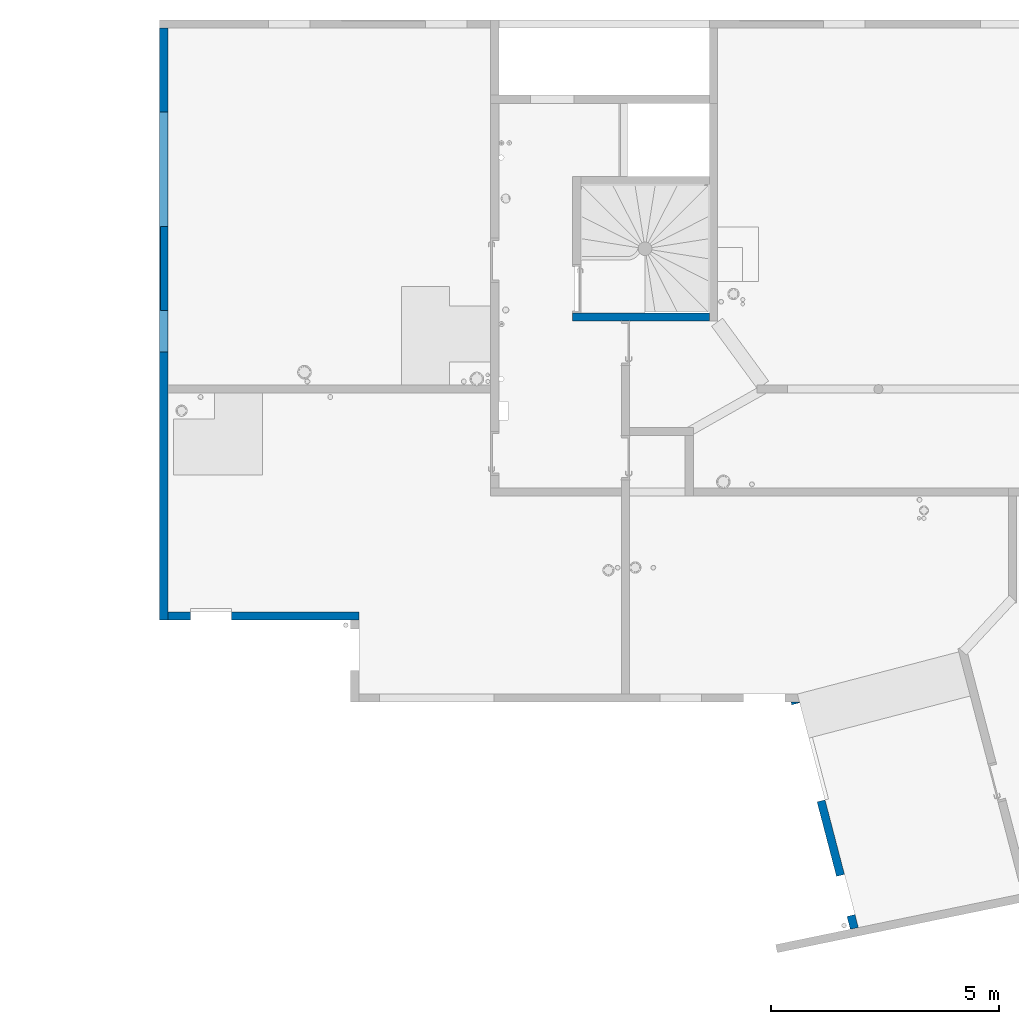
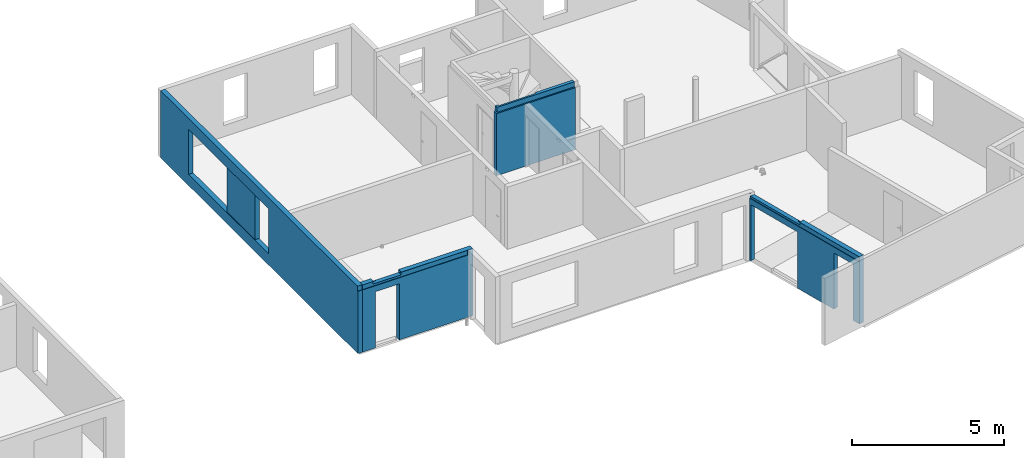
# One storey, part 18 of 24: 4 walls.
"""IFC2X3 building model written with IfcOpenShell, lengths in centimetres."""

import ifcopenshell
import ifcopenshell.guid

model = None  # the IFC model being written
_history = None  # IfcOwnerHistory: only IFC2X3 demands one
_inside = {}  # id of a spatial element -> (the spatial element, [elements in it])
_under = {}  # id of a project, library or spatial element -> (it, [spatial elements below it])
_declared = {}  # id of a project -> (the project, [libraries it declares])
_typed = {}  # id of a type object -> (the type object, [elements of that type])
_made_of = {}  # id of a material, layer set ... -> (it, [elements and type objects made of it])


def new_model(schema):
    """Start an empty IFC model of exactly this schema.

    Asked for "IFC4X3", IfcOpenShell would pick the latest addendum, in which some entities
    have other attributes; the version numbers below select the first issue.
    IFC2X3 requires an IfcOwnerHistory on every rooted entity: one is made here for all.
    """
    global model, _history
    if schema == "IFC4X3":
        model = ifcopenshell.file(schema_version=(4, 3, 0, 0))
    else:
        model = ifcopenshell.file(schema=schema)
    _inside.clear()
    _under.clear()
    _declared.clear()
    _typed.clear()
    _made_of.clear()
    _history = None
    if model.schema == "IFC2X3":
        org = make("IfcOrganization", Name="unknown")
        user = make(
            "IfcPersonAndOrganization",
            ThePerson=make("IfcPerson", FamilyName="unknown"),
            TheOrganization=org,
        )
        app = make(
            "IfcApplication",
            ApplicationDeveloper=org,
            Version="unknown",
            ApplicationFullName="unknown",
            ApplicationIdentifier="unknown",
        )
        _history = make(
            "IfcOwnerHistory",
            OwningUser=user,
            OwningApplication=app,
            ChangeAction="ADDED",
            CreationDate=0,
        )
    return model


def make(cls, **values):
    """One entity of the class cls with the attributes given. An attribute that is None is left unset."""
    return model.create_entity(
        cls, **{name: value for name, value in values.items() if value is not None}
    )


def entity(cls, *values):
    """Any entity or typed value of the class cls, its attributes in the order of the schema. None: left unset."""
    e = model.create_entity(cls)
    for i, value in enumerate(values):
        if value is not None:
            e[i] = value
    return e


def rooted(cls, **values):
    """An entity with a GlobalId (a new one), such as an element, a storey or a relation."""
    return make(cls, GlobalId=ifcopenshell.guid.new(), OwnerHistory=_history, **values)


def si_unit(unit_type, name, prefix=None):
    """IfcSIUnit, for example si_unit("LENGTHUNIT", "METRE", prefix="MILLI")."""
    return make("IfcSIUnit", UnitType=unit_type, Prefix=prefix, Name=name)


def converted_unit(unit_type, name, factor, base, dimensions=None, offset=None):
    """IfcConversionBasedUnit, such as the inch: factor (a typed value) times the base unit."""
    return make(
        "IfcConversionBasedUnit"
        if offset is None
        else "IfcConversionBasedUnitWithOffset",
        ConversionOffset=offset,
        Dimensions=None
        if dimensions is None
        else entity("IfcDimensionalExponents", *dimensions),
        UnitType=unit_type,
        Name=name,
        ConversionFactor=make(
            "IfcMeasureWithUnit", ValueComponent=factor, UnitComponent=base
        ),
    )


def derived_unit(unit_type, elements):
    """IfcDerivedUnit: a product of units, each with its exponent."""
    return make(
        "IfcDerivedUnit",
        Elements=[
            make("IfcDerivedUnitElement", Unit=unit, Exponent=power)
            for unit, power in elements
        ],
        UnitType=unit_type,
    )


def assignment(units):
    """IfcUnitAssignment: the units of a project."""
    return None if units is None else make("IfcUnitAssignment", Units=units)


def point(xyz):
    """IfcCartesianPoint."""
    return None if xyz is None else make("IfcCartesianPoint", Coordinates=xyz)


def direction(xyz):
    """IfcDirection."""
    return None if xyz is None else make("IfcDirection", DirectionRatios=xyz)


def frame(location, z_axis=None, x_axis=None):
    """IfcAxis2Placement3D, a coordinate frame: its origin and axes. An axis left out is left unset."""
    return make(
        "IfcAxis2Placement3D",
        Location=point(location),
        Axis=direction(z_axis),
        RefDirection=direction(x_axis),
    )


def origin():
    """The frame at (0, 0, 0) with its axes left unset."""
    return frame((0.0, 0.0, 0.0))


def place(relative_to, where):
    """IfcLocalPlacement: puts the frame where relative to a parent placement (None: the world)."""
    return make(
        "IfcLocalPlacement", PlacementRelTo=relative_to, RelativePlacement=where
    )


def context(
    kind, dimensions, precision=None, world=None, true_north=None, identifier=None
):
    """IfcGeometricRepresentationContext, for example the 3D "Model" context."""
    return make(
        "IfcGeometricRepresentationContext",
        ContextIdentifier=identifier,
        ContextType=kind,
        CoordinateSpaceDimension=dimensions,
        Precision=precision,
        WorldCoordinateSystem=world,
        TrueNorth=true_north,
    )


def subcontext(parent, identifier, kind, view, scale=None):
    """IfcGeometricRepresentationSubContext, for example "Body" below "Model"."""
    return make(
        "IfcGeometricRepresentationSubContext",
        ContextIdentifier=identifier,
        ContextType=kind,
        ParentContext=parent,
        TargetScale=scale,
        TargetView=view,
    )


def project(units=None, contexts=None):
    """IfcProject with its units and contexts."""
    return rooted(
        "IfcProject",
        Name="project",
        RepresentationContexts=contexts,
        UnitsInContext=assignment(units),
    )


def spatial(cls, under=None, at=None, **own):
    """A site, building, storey or space (cls), placed at a placement, below another one or the project."""
    s = rooted(cls, ObjectPlacement=at, **own)
    if under is not None:
        _under.setdefault(under.id(), (under, []))[1].append(s)
    return s


def faces_of(points, faces, orient=None, outer=None):
    """IfcFace entities. A face is a list of loops; a loop is a list of indices into points, from 0.

    orient and outer hold one flag for each loop. By default every Orientation is true, the
    first loop of a face is its IfcFaceOuterBound and the others are IfcFaceBound.
    """
    made = []
    for i, loops in enumerate(faces):
        bounds = []
        for j, loop in enumerate(loops):
            is_outer = j == 0 if outer is None else outer[i][j]
            bounds.append(
                make(
                    "IfcFaceOuterBound" if is_outer else "IfcFaceBound",
                    Bound=make("IfcPolyLoop", Polygon=[points[k] for k in loop]),
                    Orientation=True if orient is None else orient[i][j],
                )
            )
        made.append(make("IfcFace", Bounds=bounds))
    return made


def faceted_brep(points, faces, orient=None, outer=None, voids=None):
    """IfcFacetedBrep: a solid bounded by flat faces; with voids (closed shells), ...WithVoids."""
    shared = [point(p) for p in points]
    hull = make("IfcClosedShell", CfsFaces=faces_of(shared, faces, orient, outer))
    if voids is None:
        return make("IfcFacetedBrep", Outer=hull)
    return make(
        "IfcFacetedBrepWithVoids",
        Outer=hull,
        Voids=[
            make(cls, CfsFaces=faces_of(shared, fs, o, b)) for cls, fs, o, b in voids
        ],
    )


def shape(context_of_items, identifier, shape_type, items):
    """IfcShapeRepresentation: the items that make up one representation, for example the "Body"."""
    return make(
        "IfcShapeRepresentation",
        ContextOfItems=context_of_items,
        RepresentationIdentifier=identifier,
        RepresentationType=shape_type,
        Items=items,
    )


def material(Name=None, Category=None):
    """IfcMaterial."""
    return make("IfcMaterial", Name=Name, Category=Category)


def layer(
    of_material, thickness, ventilated=None, Name=None, Category=None, Priority=None
):
    """IfcMaterialLayer: one layer of a wall or slab, of a material (None: an air gap)."""
    return make(
        "IfcMaterialLayer",
        Material=of_material,
        LayerThickness=thickness,
        IsVentilated=ventilated,
        Name=Name,
        Category=Category,
        Priority=Priority,
    )


def layer_set(layers, Name=None):
    """IfcMaterialLayerSet."""
    return make("IfcMaterialLayerSet", MaterialLayers=layers, LayerSetName=Name)


def made_of(thing, what):
    """Note that an element or type object is made of a material, layer set ...; save() writes the relation."""
    if what is not None:
        _made_of.setdefault(what.id(), (what, []))[1].append(thing)
    return thing


def type_object(cls, material=None, **own):
    """A type object (cls), such as IfcWallType, which elements share."""
    return made_of(rooted(cls, **own), material)


def element(
    cls,
    number,
    at=None,
    inside=None,
    cuts=None,
    type_object=None,
    material=None,
    context=None,
    identifier="Body",
    shape_type=None,
    held_by="IfcProductDefinitionShape",
    body=None,
    shapes=None,
    **own,
):
    """One element of the class cls, such as IfcWall. Its Tag is "e" and its number.

    at: its placement. inside: the storey or other place that contains it. cuts: it is an
    opening in that element (IfcRelVoidsElement). A single representation is given by context,
    identifier, shape_type and body (its items); several are given by shapes. held_by: the class
    of the entity that holds the representations. save() writes the other relations.
    """
    e = rooted(cls, Tag="e%d" % number, ObjectPlacement=at, **own)
    if body is not None:
        shapes = [shape(context, identifier, shape_type, body)]
    if shapes is not None:
        e.Representation = make(held_by, Representations=shapes)
    if inside is not None:
        _inside.setdefault(inside.id(), (inside, []))[1].append(e)
    if cuts is not None:
        rooted(
            "IfcRelVoidsElement", RelatingBuildingElement=cuts, RelatedOpeningElement=e
        )
    if type_object is not None:
        _typed.setdefault(type_object.id(), (type_object, []))[1].append(e)
    return made_of(e, material)


def aggregate(whole, parts):
    """IfcRelAggregates: a whole, such as a stair, and the parts it consists of."""
    return rooted("IfcRelAggregates", RelatingObject=whole, RelatedObjects=parts)


def save(model, path):
    """Write the relations noted so far, then the file.

    IfcRelAggregates (storeys below a building ...), IfcRelContainedInSpatialStructure (elements
    in a storey), IfcRelDefinesByType, IfcRelAssociatesMaterial and IfcRelDeclares: one each for
    every whole, place, type object, material and project.
    """
    for whole, parts in _under.values():
        aggregate(whole, parts)
    for where, things in _inside.values():
        rooted(
            "IfcRelContainedInSpatialStructure",
            RelatedElements=things,
            RelatingStructure=where,
        )
    for kind, things in _typed.values():
        rooted("IfcRelDefinesByType", RelatedObjects=things, RelatingType=kind)
    for what, things in _made_of.values():
        rooted("IfcRelAssociatesMaterial", RelatedObjects=things, RelatingMaterial=what)
    for by, libraries in _declared.values():
        rooted("IfcRelDeclares", RelatingContext=by, RelatedDefinitions=libraries)
    model.write(path)


model = new_model("IFC2X3")

# Units and contexts
model_context = context("Model", 3, precision=0.001, world=origin(), true_north=direction((6.12303176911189e-17, 1.0)))
body_context = subcontext(model_context, "Body", "Model", "MODEL_VIEW")
ifc_project = project(units=[si_unit("LENGTHUNIT", "METRE", prefix="CENTI"), si_unit("AREAUNIT", "SQUARE_METRE"), si_unit("VOLUMEUNIT", "CUBIC_METRE"), converted_unit("PLANEANGLEUNIT", "DEGREE", entity("IfcRatioMeasure", 0.0174532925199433), si_unit("PLANEANGLEUNIT", "RADIAN"), dimensions=[0, 0, 0, 0, 0, 0, 0]), si_unit("MASSUNIT", "GRAM", prefix="KILO"), derived_unit("MASSDENSITYUNIT", [(si_unit("MASSUNIT", "GRAM", prefix="KILO"), 1), (si_unit("LENGTHUNIT", "METRE"), -3)]), si_unit("TIMEUNIT", "SECOND"), si_unit("FREQUENCYUNIT", "HERTZ"), si_unit("THERMODYNAMICTEMPERATUREUNIT", "DEGREE_CELSIUS"), derived_unit("THERMALTRANSMITTANCEUNIT", [(si_unit("MASSUNIT", "GRAM", prefix="KILO"), 1), (si_unit("THERMODYNAMICTEMPERATUREUNIT", "KELVIN"), -1), (si_unit("TIMEUNIT", "SECOND"), -3)]), derived_unit("VOLUMETRICFLOWRATEUNIT", [(si_unit("LENGTHUNIT", "METRE"), 3), (si_unit("TIMEUNIT", "SECOND"), -1)]), si_unit("ELECTRICCURRENTUNIT", "AMPERE"), si_unit("ELECTRICVOLTAGEUNIT", "VOLT"), si_unit("POWERUNIT", "WATT"), si_unit("FORCEUNIT", "NEWTON"), si_unit("ILLUMINANCEUNIT", "LUX"), si_unit("LUMINOUSFLUXUNIT", "LUMEN"), si_unit("LUMINOUSINTENSITYUNIT", "CANDELA"), derived_unit("USERDEFINED", [(si_unit("MASSUNIT", "GRAM", prefix="KILO"), -1), (si_unit("LENGTHUNIT", "METRE"), -2), (si_unit("TIMEUNIT", "SECOND"), 3), (si_unit("LUMINOUSFLUXUNIT", "LUMEN"), 1)]), derived_unit("LINEARVELOCITYUNIT", [(si_unit("LENGTHUNIT", "METRE"), 1), (si_unit("TIMEUNIT", "SECOND"), -1)]), si_unit("PRESSUREUNIT", "PASCAL"), derived_unit("USERDEFINED", [(si_unit("LENGTHUNIT", "METRE"), -2), (si_unit("MASSUNIT", "GRAM", prefix="KILO"), 1), (si_unit("TIMEUNIT", "SECOND"), -2)])], contexts=[model_context])

# Site, building, storey
site_placement = place(None, origin())
site = spatial("IfcSite", under=ifc_project, at=site_placement, Name="Default", CompositionType="ELEMENT")
building_placement = place(site_placement, origin())
building = spatial("IfcBuilding", under=site, at=building_placement, Name="CAGE 03", CompositionType="ELEMENT")
storey_placement = place(building_placement, frame((0.0, 0.0, 1150.0)))
storey = spatial("IfcBuildingStorey", under=building, at=storey_placement, Name="R+4", CompositionType="ELEMENT", Elevation=1150.0)

# Walls
ifc_material = material(Name="Béton, C25/30")
ifc_layer = layer(ifc_material, 18.0)
ifc_layer_set = layer_set([ifc_layer], Name="Mur de base:Voile BA 18")
wall_type_1 = type_object("IfcWallType", Name="Mur de base:Voile BA 18", PredefinedType="STANDARD", material=ifc_layer_set)
wall_1_placement = place(storey_placement, frame((9293.36582014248, 5275.66066607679, 0.0), z_axis=(0.0, 0.0, 1.0), x_axis=(0.0, -1.0, 0.0)))
element("IfcWall", 1, at=wall_1_placement, inside=storey, type_object=wall_type_1, Name="Mur de base:Voile BA 18", ObjectType="Mur de base:Voile BA 18", context=body_context, shape_type="Brep", body=[
    faceted_brep([(710.0, -9.0, 226.0), (710.0, -9.0, 45.0), (184.0, -9.0, 45.0), (184.0, -9.0, 226.0), (0.0, -9.0, 0.0), (1297.0, -9.0, 0.0), (1299.0, -9.0, 0.0), (1299.0, -9.0, 250.0), (1297.0, -9.0, 250.0), (1297.0, -9.0, 270.0), (165.0, -9.0, 270.0), (147.0, -9.0, 270.0), (0.0, -9.0, 270.0), (710.0, 9.0, 45.0), (710.0, 9.0, 226.0), (619.0, 9.0, 226.0), (619.0, 9.0, 45.0), (1299.0, 9.0, 0.0), (1297.0, 9.0, 0.0), (1281.0, 9.0, 0.0), (801.0, 9.0, 0.0), (783.0, 9.0, 0.0), (0.0, 9.0, 0.0), (0.0, 9.0, 250.0), (0.0, 9.0, 270.0), (147.0, 9.0, 270.0), (165.0, 9.0, 270.0), (1281.0, 9.0, 270.0), (1297.0, 9.0, 270.0), (1297.0, 9.0, 250.0), (1299.0, 9.0, 250.0), (435.0, 9.0, 45.0), (435.0, 9.0, 226.0), (184.0, 9.0, 226.0), (184.0, 9.0, 45.0), (1299.0, -5.0, 250.0), (1299.0, -5.0, 251.466307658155), (1299.0, -6.0, 251.0), (1299.0, -6.0, 250.0), (619.0, -7.0, 226.0), (619.0, -7.0, 45.0), (435.0, -7.0, 45.0), (435.0, -7.0, 226.0), (1297.0, -5.0, 251.466307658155), (1297.0, -5.0, 250.0), (1297.0, -6.0, 250.0), (1297.0, -6.0, 251.0)], [[[0, 1, 2, 3], [4, 5, 6, 7, 8, 9, 10, 11, 12]], [[13, 14, 15, 16], [17, 18, 19, 20, 21, 22, 23, 24, 25, 26, 27, 28, 29, 30], [31, 32, 33, 34]], [[6, 5, 4, 22, 21, 20, 19, 18, 17]], [[24, 12, 11, 10, 9, 28, 27, 26, 25]], [[6, 17, 30, 35, 36, 37, 38, 7]], [[13, 1, 0, 14]], [[16, 15, 39, 40]], [[4, 12, 24, 23, 22]], [[41, 40, 39, 42]], [[14, 0, 3, 33, 32, 42, 39, 15]], [[1, 13, 16, 40, 41, 31, 34, 2]], [[31, 41, 42, 32]], [[33, 3, 2, 34]], [[43, 44, 29, 28, 9, 8, 45, 46]], [[45, 8, 7, 38]], [[46, 45, 38, 37]], [[44, 43, 36, 35]], [[43, 46, 37, 36]], [[44, 35, 30, 29]]], outer=[[False, True], [False, True, False], [True], [True], [True], [True], [True], [True], [True], [True], [True], [True], [True], [True], [True], [True], [True], [True], [True]]),
])
wall_2_placement = place(storey_placement, frame((9302.36582014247, 3985.66066607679, 0.0)))
element("IfcWall", 2, at=wall_2_placement, inside=storey, type_object=wall_type_1, Name="Mur de base:Voile BA 18", ObjectType="Mur de base:Voile BA 18", context=body_context, shape_type="Brep", body=[
    faceted_brep([(49.5000000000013, -9.0, 270.0), (49.0, -9.0, 270.0), (0.0, -9.0, 270.0), (0.035874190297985, -9.0, 269.589956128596), (49.5000000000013, -9.0, 269.589956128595), (419.0, 9.0, 0.0), (147.500000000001, 9.0, 0.0), (140.0, 9.0, 0.0), (140.0, 9.0, 226.0), (49.0, 9.0, 226.0), (49.0, 9.0, 0.0), (41.5000000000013, 9.0, 0.0), (0.0, 9.0, 0.0), (0.0, 9.0, 250.0), (0.0, 9.0, 270.0), (41.5000000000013, 9.0, 270.0), (41.5000000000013, 9.0, 258.0), (147.500000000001, 9.0, 258.0), (147.500000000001, 9.0, 270.0), (419.0, 9.0, 270.0), (419.0, 9.0, 250.0), (0.0, -9.0, 0.0), (0.0, -7.0, 0.0), (49.0, -9.0, 0.0), (419.0, -9.0, 270.0), (147.500000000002, -7.0, 270.0), (139.500000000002, -7.0, 270.0), (139.500000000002, -9.0, 270.0), (140.0, -9.0, 270.0), (401.0, -9.0, 270.0), (0.0, -9.0, 250.0), (0.0, -7.0, 250.0), (0.0, -7.0, 270.0), (419.0, -9.0, 0.0), (419.0, -9.0, 250.0), (140.0, -9.0, 226.0), (140.0, -9.0, 0.0), (49.0, -9.0, 226.0), (0.034124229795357, -7.0, 269.609958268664), (400.0, -7.0, 250.0), (400.0, -7.0, 269.609958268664), (147.500000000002, -7.0, 269.609958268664), (147.500000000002, -7.0, 258.0), (41.5000000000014, -7.0, 258.0), (41.5000000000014, -7.0, 269.609958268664), (396.0, -7.0, 250.0), (396.0, -7.0, 251.466307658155), (397.0, -7.0, 251.0), (397.0, -7.0, 250.0), (49.5000000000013, -7.0, 269.609958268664), (49.5000000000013, -7.0, 270.0), (139.500000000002, -9.0, 269.589956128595), (139.500000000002, -7.0, 269.609958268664), (400.0, -9.0, 250.0), (400.0, -9.0, 269.589956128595), (396.0, -9.0, 250.0), (41.5000000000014, -7.0, 270.0), (397.0, -9.0, 251.0), (397.0, -9.0, 250.0), (396.0, -9.0, 251.466307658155), (401.0, -9.0, 0.0)], [[[0, 1, 2, 3, 4]], [[5, 6, 7, 8, 9, 10, 11, 12, 13, 14, 15, 16, 17, 18, 19, 20]], [[21, 22, 12, 11, 10, 23]], [[24, 19, 18, 25, 26, 27, 28, 29]], [[12, 22, 21, 30, 31, 32, 14, 13]], [[33, 5, 20, 19, 24, 34]], [[35, 8, 7, 36]], [[8, 35, 37, 9]], [[9, 37, 23, 10]], [[32, 38, 3, 2]], [[39, 40, 41, 42, 43, 44, 38, 32, 31, 45, 46, 47, 48]], [[0, 4, 49, 50]], [[51, 27, 26, 52]], [[16, 43, 42, 17]], [[40, 39, 53, 54]], [[38, 44, 49, 4, 3]], [[55, 45, 31, 30]], [[25, 41, 52, 26]], [[49, 44, 56, 50]], [[48, 47, 57, 58]], [[46, 45, 55, 59]], [[47, 46, 59, 57]], [[41, 25, 18, 17, 42]], [[44, 43, 16, 15, 56]], [[39, 48, 58, 53]], [[41, 40, 54, 51, 52]], [[2, 1, 0, 50, 56, 15, 14, 32]], [[5, 33, 60, 36, 7, 6]], [[36, 60, 33, 34, 24, 29, 28, 27, 51, 54, 53, 58, 57, 59, 55, 30, 21, 23, 37, 35]]]),
])
wall_3_placement = place(storey_placement, frame((10678.3331842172, 3798.9347832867, 0.0), z_axis=(0.0, 0.0, 1.0), x_axis=(0.252679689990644, -0.967549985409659, 0.0)))
element("IfcWall", 3, at=wall_3_placement, inside=storey, type_object=wall_type_1, Name="Mur de base:Voile BA 18", ObjectType="Mur de base:Voile BA 18", context=body_context, shape_type="Brep", body=[
    faceted_brep([(6.0409106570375, -9.0, 270.0), (0.0, -9.0, 270.0), (0.0, -9.0, 269.589956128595), (6.04091065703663, -9.0, 269.589956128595), (0.522308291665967, -7.0, 270.0), (0.522308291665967, -7.0, 269.609958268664), (6.0409106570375, -7.0, 269.609958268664), (6.04091065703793, -7.0, 270.0)], [[[0, 1, 2, 3]], [[2, 1, 4, 5]], [[0, 3, 6, 7]], [[5, 6, 3, 2]], [[6, 5, 4, 7]], [[1, 0, 7, 4]]]),
    faceted_brep([(515.782049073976, 9.0, 0.0), (486.040910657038, 9.0, 0.0), (486.040910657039, 9.0, 226.0), (395.040910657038, 9.0, 226.0), (395.040910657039, 9.0, 0.0), (234.040910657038, 9.0, 0.0), (226.040910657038, 9.0, 0.0), (226.040910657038, 9.0, 226.0), (6.04091065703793, 9.0, 226.0), (6.04091065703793, 9.0, 0.0), (4.70077462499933, 9.0, 0.0), (4.7007746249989, 9.0, 250.0), (4.7007746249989, 9.0, 258.0), (234.040910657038, 9.0, 258.0), (234.040910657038, 9.0, 270.0), (395.040910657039, 9.0, 270.0), (486.040910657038, 9.0, 270.0), (515.782049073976, 9.0, 270.0), (515.782049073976, 9.0, 250.0), (0.0, -9.0, 0.0), (0.522308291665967, -7.0, 0.0), (6.04091065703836, -7.0, 0.0), (6.04091065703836, -9.0, 0.0), (514.841757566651, -9.0, 270.0), (234.040910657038, -7.0, 270.0), (226.040910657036, -7.0, 270.0), (226.040910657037, -9.0, 270.0), (395.040910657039, -9.0, 270.0), (486.040910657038, -9.0, 270.0), (514.841757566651, -9.0, 0.0), (486.040910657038, -9.0, 226.0), (486.040910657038, -9.0, 0.0), (395.040910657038, -9.0, 226.0), (395.040910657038, -9.0, 0.0), (226.040910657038, -9.0, 226.0), (226.040910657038, -7.0, 0.0), (226.040910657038, -9.0, 0.0), (6.04091065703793, -9.0, 226.0), (0.522308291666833, -7.0, 258.0), (234.040910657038, -7.0, 258.0), (226.040910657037, -9.0, 269.589956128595), (226.040910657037, -7.0, 269.609958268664), (2.04091065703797, -7.0, 250.0), (509.939416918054, -7.0, 250.0), (509.939416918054, -7.0, 251.466307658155), (510.940780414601, -7.0, 251.0), (510.940780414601, -7.0, 250.0), (513.944870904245, -7.0, 250.0), (513.944870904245, -7.0, 269.609958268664), (234.040910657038, -7.0, 269.609958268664), (0.5223082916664, -7.0, 250.0), (1.04091065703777, -7.0, 250.0), (1.04091065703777, -7.0, 251.0), (2.04091065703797, -7.0, 251.466307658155), (1.04091065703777, -9.0, 250.0), (0.0, -9.0, 250.0), (513.840394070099, -9.0, 250.0), (513.840394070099, -9.0, 269.589956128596), (510.836303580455, -9.0, 251.0), (510.836303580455, -9.0, 250.0), (509.834940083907, -9.0, 250.0), (509.834940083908, -9.0, 251.466307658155), (1.04091065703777, -9.0, 251.0), (2.04091065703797, -9.0, 251.466307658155), (2.04091065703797, -9.0, 250.0)], [[[0, 1, 2, 3, 4, 5, 6, 7, 8, 9, 10, 11, 12, 13, 14, 15, 16, 17, 18]], [[19, 20, 10, 9, 21, 22]], [[23, 17, 16, 15, 14, 24, 25, 26, 27, 28]], [[23, 29, 0, 18, 17]], [[30, 2, 1, 31]], [[2, 30, 32, 3]], [[3, 32, 33, 4]], [[34, 7, 6, 35, 36]], [[7, 34, 37, 8]], [[8, 37, 22, 21, 9]], [[12, 38, 39, 13]], [[40, 26, 25, 41]], [[42, 43, 44, 45, 46, 47, 48, 49, 39, 38, 50, 51, 52, 53]], [[54, 51, 50, 55]], [[48, 47, 56, 57]], [[49, 41, 25, 24]], [[46, 45, 58, 59]], [[44, 43, 60, 61]], [[45, 44, 61, 58]], [[52, 51, 54, 62]], [[42, 53, 63, 64]], [[53, 52, 62, 63]], [[39, 49, 24, 14, 13]], [[49, 48, 57, 40, 41]], [[43, 42, 64, 60]], [[47, 46, 59, 56]], [[10, 20, 19, 55, 50, 38, 12, 11]], [[4, 33, 36, 35, 6, 5]], [[0, 29, 31, 1]], [[29, 23, 28, 27, 26, 40, 57, 56, 59, 58, 61, 60, 64, 63, 62, 54, 55, 19, 22, 37, 34, 36, 33, 32, 30, 31]]]),
])
wall_type_2 = type_object("IfcWallType", Name="Mur de base:premur 18", PredefinedType="NOTDEFINED")
wall_4_placement = place(storey_placement, frame((10490.3658201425, 4641.66066607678, 0.0), z_axis=(0.0, 0.0, 1.0), x_axis=(-1.0, 0.0, 0.0)))
element("IfcWall", 4, at=wall_4_placement, inside=storey, type_object=wall_type_2, Name="Mur de base:premur 18", ObjectType="Mur de base:premur 18", context=body_context, shape_type="Brep", body=[
    faceted_brep([(0.0, -9.0, 0.0), (141.0, -9.0, 0.0), (287.500000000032, -9.0, 0.0), (294.499999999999, -9.0, 0.0), (300.0, -9.0, 0.0), (300.0, -9.0, 210.0), (300.0, -9.0, 250.0), (294.499999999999, -9.0, 250.0), (294.499999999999, -9.0, 270.0), (287.500000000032, -9.0, 270.0), (287.500000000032, -9.0, 250.0), (141.0, -9.0, 250.0), (141.0, -9.0, 270.0), (0.0, -9.0, 270.0), (300.0, 9.0, 0.0), (0.0, 9.0, 0.0), (0.0, 9.0, 250.0), (175.0, 9.0, 250.0), (193.0, 9.0, 250.0), (300.0, 9.0, 250.0), (0.0, 3.4999999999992, 0.0), (294.499999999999, 3.50000000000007, 270.0), (0.0, 3.4999999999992, 270.0), (141.0, -3.49999999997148, 270.0), (287.500000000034, -3.50000000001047, 270.0), (0.0, 3.4999999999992, 250.0), (294.499999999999, 3.50000000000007, 250.0), (287.500000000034, -3.50000000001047, 250.0), (141.0, -3.49999999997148, 250.0)], [[[0, 1, 2, 3, 4, 5, 6, 7, 8, 9, 10, 11, 12, 13]], [[14, 15, 16, 17, 18, 19]], [[4, 3, 2, 1, 0, 20, 15, 14]], [[8, 21, 22, 13, 12, 23, 24, 9]], [[0, 13, 22, 25, 16, 15, 20]], [[4, 14, 19, 6, 5]], [[26, 7, 6, 19, 18, 17, 16, 25]], [[26, 21, 8, 7]], [[21, 26, 25, 22]], [[27, 28, 11, 10]], [[28, 23, 12, 11]], [[24, 27, 10, 9]], [[28, 27, 24, 23]]]),
])

save(model, "model.ifc")
